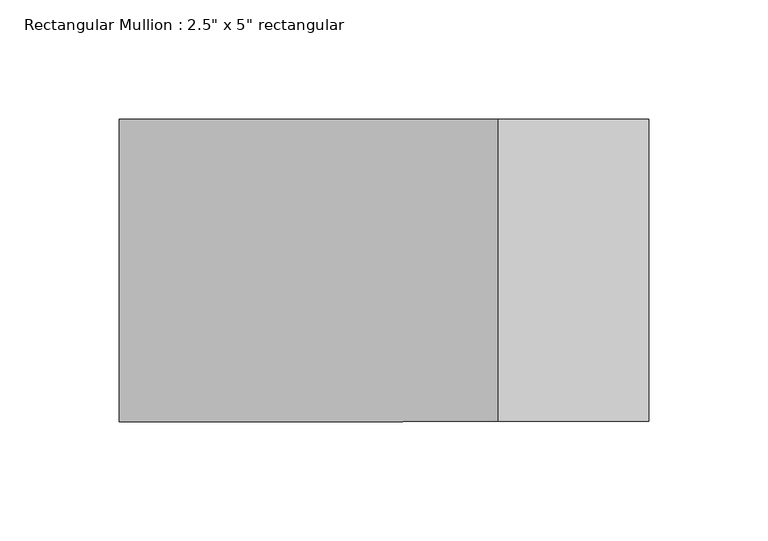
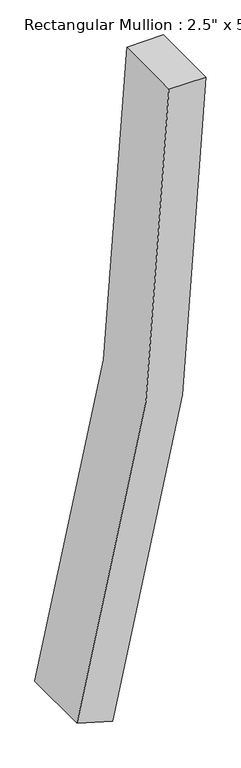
"""IFC4 building model written with IfcOpenShell, lengths in millimetres: member geometry."""

from ifc_helpers import new_model, si_unit, point, frame, frame_2d, origin, place, context, project, spatial, polyline, circle_curve, trimmed, segment, composite_curve, outline, extrude, source, transform, mapped, element, save


def member_6f85aded(model_context):
    return source(origin(), model_context, "Body", "SweptSolid", [
        extrude(outline(composite_curve([segment(trimmed(circle_curve(frame_2d((0.0, -3962.4)), 3962.4), [point((-1120.5025501, -161.7306122))], [point((0.0, 0.0))], False, "CARTESIAN"), True, "CONTINUOUS"), segment(polyline([(0.0, 0.0), (0.0, -63.5)]), True, "CONTINUOUS"), segment(trimmed(circle_curve(frame_2d((0.0, -3962.4)), 3898.9), [point((0.0, -63.5))], [point((-1102.5457785, -222.6387755))], True, "CARTESIAN"), True, "CONTINUOUS"), segment(polyline([(-1102.5457785, -222.6387755), (-1120.5025501, -161.7306122)]), True, "CONTINUOUS")], self_intersect=False)), frame((0.0, -63.5, 0.0), z_axis=(0.0, 1.0, 0.0), x_axis=(0.0, 0.0, 1.0)), (0.0, 0.0, 1.0), 127.0),
    ])


if __name__ == "__main__":
    model = new_model("IFC4")
    model_context = context("Model", 3, world=origin())
    ifc_project = project(units=[si_unit("LENGTHUNIT", "METRE", prefix="MILLI")], contexts=[model_context])
    site = spatial("IfcSite", under=ifc_project)
    building = spatial("IfcBuilding", under=site)
    placement = place(None, origin())
    member_shape = member_6f85aded(model_context)
    element("IfcMember", 1, ObjectType="Rectangular Mullion : 2.5\" x 5\" rectangular", at=placement, inside=building, context=model_context, shape_type="MappedRepresentation", body=[
        mapped(member_shape, transform((0.0, 0.0, 0.0), x_axis=(1.0, 0.0, 0.0), y_axis=(0.0, 1.0, 0.0), z_axis=(0.0, 0.0, 1.0))),
    ])
    save(model, "model.ifc")
